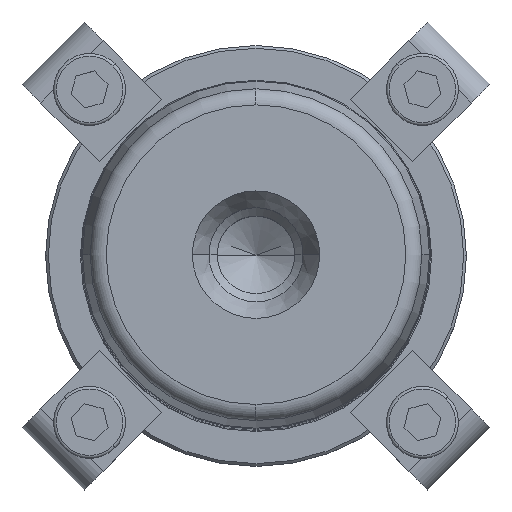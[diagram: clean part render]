
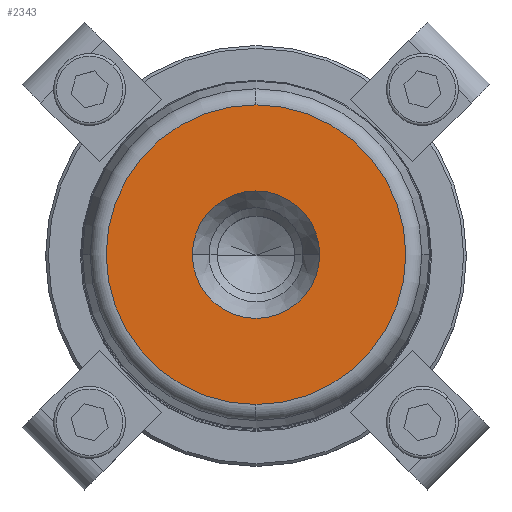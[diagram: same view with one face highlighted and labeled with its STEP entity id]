
A CAD part, top view. The second image highlights one B-rep face of the part: STEP entity #2343.
In plain terms, the highlighted planar face has unit normal (0, 0, 1).
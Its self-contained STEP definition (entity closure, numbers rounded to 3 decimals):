
#431=CARTESIAN_POINT('',(11.5,0.,140.0));
#432=VERTEX_POINT('',#431);
#439=CARTESIAN_POINT('',(-11.5,0.,140.0));
#440=VERTEX_POINT('',#439);
#441=CARTESIAN_POINT('',(0.0,0.,140.0));
#442=DIRECTION('',(0.0,0.0,1.0));
#443=DIRECTION('',(1.0,0.0,0.0));
#444=AXIS2_PLACEMENT_3D('',#441,#442,#443);
#445=CIRCLE('',#444,11.5);
#446=EDGE_CURVE('',#432,#440,#445,.T.);
#463=CARTESIAN_POINT('',(0.0,-27.054,140.0));
#464=VERTEX_POINT('',#463);
#474=CARTESIAN_POINT('',(0.,27.054,140.0));
#475=VERTEX_POINT('',#474);
#476=CARTESIAN_POINT('',(0.0,0.,140.0));
#477=DIRECTION('',(0.0,0.0,1.0));
#478=DIRECTION('',(1.0,0.0,0.0));
#479=AXIS2_PLACEMENT_3D('',#476,#477,#478);
#480=CIRCLE('',#479,27.054);
#481=EDGE_CURVE('',#475,#464,#480,.T.);
#2304=CARTESIAN_POINT('',(27.054,0.,140.0));
#2305=VERTEX_POINT('',#2304);
#2306=CARTESIAN_POINT('',(0.0,0.,140.0));
#2307=DIRECTION('',(0.0,0.0,1.0));
#2308=DIRECTION('',(1.0,0.0,0.0));
#2309=AXIS2_PLACEMENT_3D('',#2306,#2307,#2308);
#2310=CIRCLE('',#2309,27.054);
#2311=EDGE_CURVE('',#2305,#475,#2310,.T.);
#2313=CARTESIAN_POINT('',(0.0,0.,140.0));
#2314=DIRECTION('',(0.0,0.0,1.0));
#2315=DIRECTION('',(1.0,0.0,0.0));
#2316=AXIS2_PLACEMENT_3D('',#2313,#2314,#2315);
#2317=CIRCLE('',#2316,27.054);
#2318=EDGE_CURVE('',#464,#2305,#2317,.T.);
#2323=CARTESIAN_POINT('',(19.277,0.,140.0));
#2324=DIRECTION('',(0.0,0.0,1.0));
#2325=DIRECTION('',(0.0,-1.0,0.0));
#2326=AXIS2_PLACEMENT_3D('',#2323,#2324,#2325);
#2327=PLANE('',#2326);
#2328=ORIENTED_EDGE('',*,*,#2311,.T.);
#2329=ORIENTED_EDGE('',*,*,#481,.T.);
#2330=ORIENTED_EDGE('',*,*,#2318,.T.);
#2331=EDGE_LOOP('',(#2328,#2329,#2330));
#2332=FACE_OUTER_BOUND('',#2331,.T.);
#2333=ORIENTED_EDGE('',*,*,#446,.F.);
#2334=CARTESIAN_POINT('',(0.0,0.,140.0));
#2335=DIRECTION('',(0.0,0.0,1.0));
#2336=DIRECTION('',(1.0,0.0,0.0));
#2337=AXIS2_PLACEMENT_3D('',#2334,#2335,#2336);
#2338=CIRCLE('',#2337,11.5);
#2339=EDGE_CURVE('',#440,#432,#2338,.T.);
#2340=ORIENTED_EDGE('',*,*,#2339,.F.);
#2341=EDGE_LOOP('',(#2333,#2340));
#2342=FACE_BOUND('',#2341,.T.);
#2343=ADVANCED_FACE('',(#2332,#2342),#2327,.T.);
